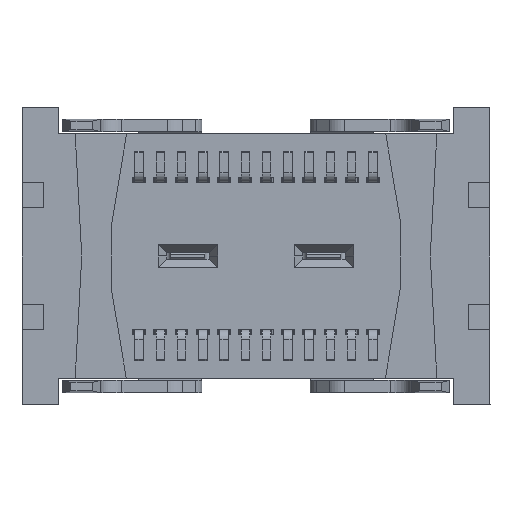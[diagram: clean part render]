
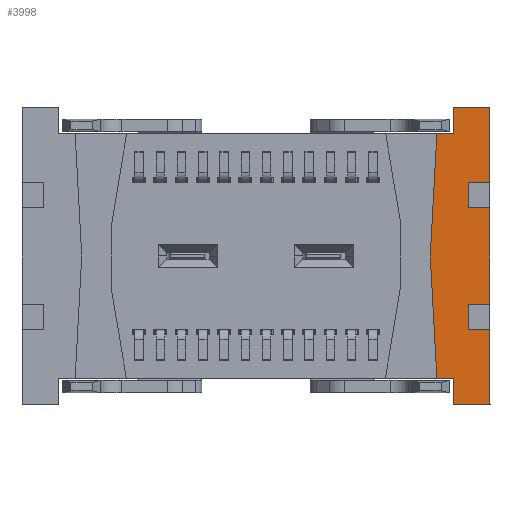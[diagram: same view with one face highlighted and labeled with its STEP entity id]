
A CAD part, front view. The second image highlights one B-rep face of the part: STEP entity #3998.
In plain terms, the highlighted planar face has unit normal (0, -1, 0).
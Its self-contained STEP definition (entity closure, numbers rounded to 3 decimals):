
#930 = CARTESIAN_POINT ( 'NONE',  ( 10.15, -10., -6.37 ) ) ;
#1007 = LINE ( 'NONE', #51794, #72452 ) ;
#1239 = CARTESIAN_POINT ( 'NONE',  ( 11., -10., 0. ) ) ;
#1897 = CARTESIAN_POINT ( 'NONE',  ( 10.5, -10., -5.235 ) ) ;
#2169 = DIRECTION ( 'NONE',  ( -1., 0., 0. ) ) ;
#2271 = ORIENTED_EDGE ( 'NONE', *, *, #56992, .F. ) ;
#2418 = CARTESIAN_POINT ( 'NONE',  ( 9.6, -10., -3.575 ) ) ;
#2731 = LINE ( 'NONE', #1897, #65792 ) ;
#3291 = ORIENTED_EDGE ( 'NONE', *, *, #56148, .T. ) ;
#3512 = VERTEX_POINT ( 'NONE', #23345 ) ;
#3709 = VECTOR ( 'NONE', #62814, 1000. ) ;
#3998 = ADVANCED_FACE ( 'NONE', ( #7389 ), #12905, .T. ) ;
#4067 = CARTESIAN_POINT ( 'NONE',  ( 11., -10., 0. ) ) ;
#4485 = VERTEX_POINT ( 'NONE', #67754 ) ;
#4633 = CARTESIAN_POINT ( 'NONE',  ( 11., -10., -2.365 ) ) ;
#4938 = CARTESIAN_POINT ( 'NONE',  ( 11., -10., 0. ) ) ;
#6169 = DIRECTION ( 'NONE',  ( 0., 0., -1. ) ) ;
#6182 = EDGE_CURVE ( 'NONE', #81332, #57025, #56541, .T. ) ;
#6415 = ORIENTED_EDGE ( 'NONE', *, *, #13254, .T. ) ;
#6925 = CARTESIAN_POINT ( 'NONE',  ( 11., -10., -4.635 ) ) ;
#6971 = CARTESIAN_POINT ( 'NONE',  ( 9.75, -10., -0.63 ) ) ;
#7010 = VERTEX_POINT ( 'NONE', #2418 ) ;
#7389 = FACE_OUTER_BOUND ( 'NONE', #35571, .T. ) ;
#7471 = ORIENTED_EDGE ( 'NONE', *, *, #61024, .F. ) ;
#7473 = ORIENTED_EDGE ( 'NONE', *, *, #51834, .T. ) ;
#8236 = VERTEX_POINT ( 'NONE', #75080 ) ;
#8830 = ORIENTED_EDGE ( 'NONE', *, *, #51609, .T. ) ;
#9181 = VERTEX_POINT ( 'NONE', #64670 ) ;
#11626 = LINE ( 'NONE', #42944, #3709 ) ;
#11744 = ORIENTED_EDGE ( 'NONE', *, *, #6182, .T. ) ;
#12068 = VECTOR ( 'NONE', #29510, 1000. ) ;
#12905 = PLANE ( 'NONE',  #81237 ) ;
#12935 = EDGE_CURVE ( 'NONE', #57025, #48394, #49796, .T. ) ;
#13254 = EDGE_CURVE ( 'NONE', #48321, #57341, #2731, .T. ) ;
#13785 = VERTEX_POINT ( 'NONE', #50834 ) ;
#13942 = CARTESIAN_POINT ( 'NONE',  ( 10.5, -10., -5.235 ) ) ;
#15556 = CARTESIAN_POINT ( 'NONE',  ( 10.15, -10., -7. ) ) ;
#15937 = DIRECTION ( 'NONE',  ( 0., 0., -1. ) ) ;
#16073 = DIRECTION ( 'NONE',  ( 0., 0., 1. ) ) ;
#16086 = LINE ( 'NONE', #22025, #45225 ) ;
#16672 = ORIENTED_EDGE ( 'NONE', *, *, #56332, .T. ) ;
#17326 = VERTEX_POINT ( 'NONE', #6925 ) ;
#17372 = EDGE_CURVE ( 'NONE', #45802, #73808, #1007, .T. ) ;
#17705 = EDGE_CURVE ( 'NONE', #9181, #8236, #76673, .T. ) ;
#17976 = VECTOR ( 'NONE', #16073, 1000. ) ;
#19745 = ORIENTED_EDGE ( 'NONE', *, *, #74888, .T. ) ;
#20242 = DIRECTION ( 'NONE',  ( 1., 0., 0. ) ) ;
#20353 = CARTESIAN_POINT ( 'NONE',  ( 9.6, -10., -3.425 ) ) ;
#21078 = LINE ( 'NONE', #15556, #61810 ) ;
#21378 = DIRECTION ( 'NONE',  ( 0., 0., 1. ) ) ;
#22025 = CARTESIAN_POINT ( 'NONE',  ( 9.75, -10., -6.37 ) ) ;
#22728 = DIRECTION ( 'NONE',  ( -1., 0., 0. ) ) ;
#22990 = VERTEX_POINT ( 'NONE', #4633 ) ;
#23345 = CARTESIAN_POINT ( 'NONE',  ( 10.5, -10., -1.765 ) ) ;
#23833 = ORIENTED_EDGE ( 'NONE', *, *, #74903, .T. ) ;
#24249 = DIRECTION ( 'NONE',  ( 1., 0., 0. ) ) ;
#27637 = EDGE_CURVE ( 'NONE', #3512, #4485, #48118, .T. ) ;
#27659 = EDGE_CURVE ( 'NONE', #55449, #22990, #73090, .T. ) ;
#28672 = DIRECTION ( 'NONE',  ( 0., 0., 1. ) ) ;
#29510 = DIRECTION ( 'NONE',  ( 1., 0., 0. ) ) ;
#30393 = CARTESIAN_POINT ( 'NONE',  ( 10.5, -10., -2.365 ) ) ;
#32089 = ORIENTED_EDGE ( 'NONE', *, *, #17372, .F. ) ;
#32161 = CARTESIAN_POINT ( 'NONE',  ( 9.75, -10., -6.37 ) ) ;
#32511 = LINE ( 'NONE', #58324, #73338 ) ;
#35571 = EDGE_LOOP ( 'NONE', ( #36091, #8830, #59151, #44084, #11744, #71666, #3291, #32089, #19745, #79849, #16672, #65672, #79963, #23833, #7471, #6415, #7473, #2271 ) ) ;
#36091 = ORIENTED_EDGE ( 'NONE', *, *, #27659, .F. ) ;
#37103 = DIRECTION ( 'NONE',  ( 0., 0., -1. ) ) ;
#38594 = EDGE_CURVE ( 'NONE', #55714, #7010, #16086, .T. ) ;
#38721 = DIRECTION ( 'NONE',  ( 0., 0., -1. ) ) ;
#38748 = VECTOR ( 'NONE', #37103, 1000. ) ;
#42581 = CARTESIAN_POINT ( 'NONE',  ( 10.15, -10., 0. ) ) ;
#42944 = CARTESIAN_POINT ( 'NONE',  ( 9.6, -10., -3.425 ) ) ;
#43123 = LINE ( 'NONE', #48224, #17976 ) ;
#43784 = CARTESIAN_POINT ( 'NONE',  ( 11., -10., -7. ) ) ;
#44084 = ORIENTED_EDGE ( 'NONE', *, *, #64808, .F. ) ;
#44236 = VECTOR ( 'NONE', #68312, 1000. ) ;
#45225 = VECTOR ( 'NONE', #60089, 1000. ) ;
#45802 = VERTEX_POINT ( 'NONE', #20353 ) ;
#48090 = VECTOR ( 'NONE', #15937, 1000. ) ;
#48118 = LINE ( 'NONE', #60810, #12068 ) ;
#48224 = CARTESIAN_POINT ( 'NONE',  ( 10.5, -10., -2.365 ) ) ;
#48321 = VERTEX_POINT ( 'NONE', #58811 ) ;
#48394 = VERTEX_POINT ( 'NONE', #83361 ) ;
#49796 = LINE ( 'NONE', #42581, #38748 ) ;
#50788 = LINE ( 'NONE', #32161, #79087 ) ;
#50834 = CARTESIAN_POINT ( 'NONE',  ( 11., -10., -5.235 ) ) ;
#51052 = VECTOR ( 'NONE', #53702, 1000. ) ;
#51609 = EDGE_CURVE ( 'NONE', #55449, #3512, #43123, .T. ) ;
#51794 = CARTESIAN_POINT ( 'NONE',  ( 9.6, -10., -3.425 ) ) ;
#51834 = EDGE_CURVE ( 'NONE', #57341, #17326, #32511, .T. ) ;
#53702 = DIRECTION ( 'NONE',  ( 1., 0., 0. ) ) ;
#54738 = VECTOR ( 'NONE', #2169, 1000. ) ;
#55270 = CARTESIAN_POINT ( 'NONE',  ( 11., -10., -2.365 ) ) ;
#55449 = VERTEX_POINT ( 'NONE', #30393 ) ;
#55714 = VERTEX_POINT ( 'NONE', #78558 ) ;
#56148 = EDGE_CURVE ( 'NONE', #48394, #73808, #67317, .T. ) ;
#56332 = EDGE_CURVE ( 'NONE', #55714, #66860, #50788, .T. ) ;
#56541 = LINE ( 'NONE', #4067, #77079 ) ;
#56654 = VECTOR ( 'NONE', #67569, 1000. ) ;
#56992 = EDGE_CURVE ( 'NONE', #22990, #17326, #61183, .T. ) ;
#57025 = VERTEX_POINT ( 'NONE', #61599 ) ;
#57341 = VERTEX_POINT ( 'NONE', #67428 ) ;
#57545 = DIRECTION ( 'NONE',  ( 1., 0., 0. ) ) ;
#57642 = LINE ( 'NONE', #13942, #51052 ) ;
#58135 = DIRECTION ( 'NONE',  ( 0.054, 0., 0.999 ) ) ;
#58324 = CARTESIAN_POINT ( 'NONE',  ( 10.5, -10., -4.635 ) ) ;
#58605 = DIRECTION ( 'NONE',  ( 0., -1., 0. ) ) ;
#58811 = CARTESIAN_POINT ( 'NONE',  ( 10.5, -10., -5.235 ) ) ;
#59151 = ORIENTED_EDGE ( 'NONE', *, *, #27637, .T. ) ;
#60089 = DIRECTION ( 'NONE',  ( -0.054, 0., 0.999 ) ) ;
#60133 = CARTESIAN_POINT ( 'NONE',  ( 10.15, -10., -0.63 ) ) ;
#60810 = CARTESIAN_POINT ( 'NONE',  ( 10.5, -10., -1.765 ) ) ;
#61024 = EDGE_CURVE ( 'NONE', #48321, #13785, #57642, .T. ) ;
#61183 = LINE ( 'NONE', #55270, #48090 ) ;
#61599 = CARTESIAN_POINT ( 'NONE',  ( 10.15, -10., 0. ) ) ;
#61810 = VECTOR ( 'NONE', #28672, 1000. ) ;
#62814 = DIRECTION ( 'NONE',  ( 0., 0., -1. ) ) ;
#62899 = LINE ( 'NONE', #4938, #71850 ) ;
#64670 = CARTESIAN_POINT ( 'NONE',  ( 10.15, -10., -7. ) ) ;
#64808 = EDGE_CURVE ( 'NONE', #81332, #4485, #62899, .T. ) ;
#65603 = CARTESIAN_POINT ( 'NONE',  ( 9.75, -10., -0.63 ) ) ;
#65672 = ORIENTED_EDGE ( 'NONE', *, *, #73351, .F. ) ;
#65792 = VECTOR ( 'NONE', #21378, 1000. ) ;
#66860 = VERTEX_POINT ( 'NONE', #930 ) ;
#67317 = LINE ( 'NONE', #60133, #54738 ) ;
#67428 = CARTESIAN_POINT ( 'NONE',  ( 10.5, -10., -4.635 ) ) ;
#67569 = DIRECTION ( 'NONE',  ( 1., 0., 0. ) ) ;
#67754 = CARTESIAN_POINT ( 'NONE',  ( 11., -10., -1.765 ) ) ;
#68312 = DIRECTION ( 'NONE',  ( 0., 0., 1. ) ) ;
#68401 = VECTOR ( 'NONE', #24249, 1000. ) ;
#71666 = ORIENTED_EDGE ( 'NONE', *, *, #12935, .T. ) ;
#71850 = VECTOR ( 'NONE', #6169, 1000. ) ;
#72452 = VECTOR ( 'NONE', #58135, 1000. ) ;
#73090 = LINE ( 'NONE', #74336, #56654 ) ;
#73338 = VECTOR ( 'NONE', #20242, 1000. ) ;
#73351 = EDGE_CURVE ( 'NONE', #9181, #66860, #21078, .T. ) ;
#73808 = VERTEX_POINT ( 'NONE', #65603 ) ;
#74336 = CARTESIAN_POINT ( 'NONE',  ( 10.5, -10., -2.365 ) ) ;
#74888 = EDGE_CURVE ( 'NONE', #45802, #7010, #11626, .T. ) ;
#74903 = EDGE_CURVE ( 'NONE', #8236, #13785, #82286, .T. ) ;
#75080 = CARTESIAN_POINT ( 'NONE',  ( 11., -10., -7. ) ) ;
#76673 = LINE ( 'NONE', #82197, #68401 ) ;
#77079 = VECTOR ( 'NONE', #22728, 1000. ) ;
#78558 = CARTESIAN_POINT ( 'NONE',  ( 9.75, -10., -6.37 ) ) ;
#79087 = VECTOR ( 'NONE', #57545, 1000. ) ;
#79849 = ORIENTED_EDGE ( 'NONE', *, *, #38594, .F. ) ;
#79963 = ORIENTED_EDGE ( 'NONE', *, *, #17705, .T. ) ;
#81237 = AXIS2_PLACEMENT_3D ( 'NONE', #6971, #58605, #38721 ) ;
#81332 = VERTEX_POINT ( 'NONE', #1239 ) ;
#82197 = CARTESIAN_POINT ( 'NONE',  ( 10.15, -10., -7. ) ) ;
#82286 = LINE ( 'NONE', #43784, #44236 ) ;
#83361 = CARTESIAN_POINT ( 'NONE',  ( 10.15, -10., -0.63 ) ) ;
